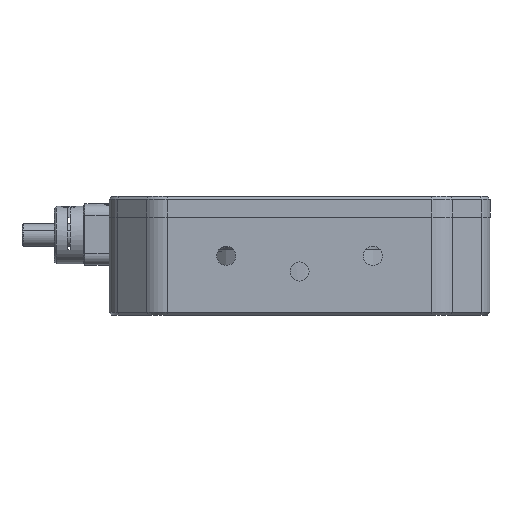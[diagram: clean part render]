
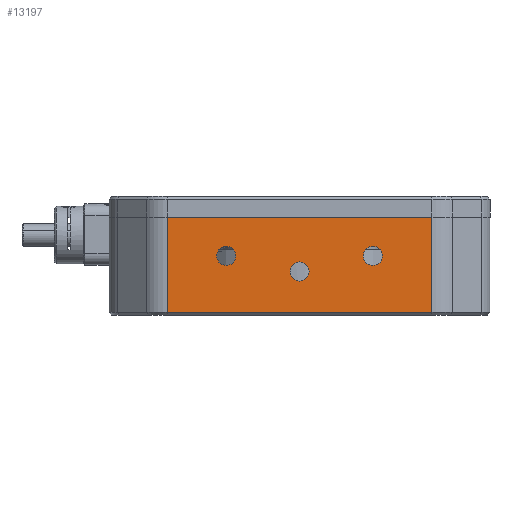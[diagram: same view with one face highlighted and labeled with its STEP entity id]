
A CAD part, front view. The second image highlights one B-rep face of the part: STEP entity #13197.
In plain terms, the highlighted planar face has unit normal (0, -1, 0).
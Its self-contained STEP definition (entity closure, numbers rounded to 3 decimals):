
#177 = CARTESIAN_POINT ( 'NONE',  ( 12.7, -33., 11.95 ) ) ;
#348 = AXIS2_PLACEMENT_3D ( 'NONE', #16070, #22334, #32355 ) ;
#1519 = FACE_BOUND ( 'NONE', #39292, .T. ) ;
#2778 = CARTESIAN_POINT ( 'NONE',  ( 12.7, -33., 8.65 ) ) ;
#3597 = CARTESIAN_POINT ( 'NONE',  ( 0., -33., 9.25 ) ) ;
#3809 = VERTEX_POINT ( 'NONE', #17522 ) ;
#4008 = ORIENTED_EDGE ( 'NONE', *, *, #7561, .F. ) ;
#4023 = ORIENTED_EDGE ( 'NONE', *, *, #27725, .F. ) ;
#4078 = EDGE_CURVE ( 'NONE', #12314, #15855, #36884, .T. ) ;
#4141 = CARTESIAN_POINT ( 'NONE',  ( 22.929, -33., 17. ) ) ;
#4150 = ORIENTED_EDGE ( 'NONE', *, *, #29383, .T. ) ;
#4716 = FACE_BOUND ( 'NONE', #17035, .T. ) ;
#5639 = CARTESIAN_POINT ( 'NONE',  ( -12.7, -33., 8.65 ) ) ;
#5710 = DIRECTION ( 'NONE',  ( 1., 0., 0. ) ) ;
#5907 = ORIENTED_EDGE ( 'NONE', *, *, #35588, .F. ) ;
#6445 = DIRECTION ( 'NONE',  ( 0., -1., 0. ) ) ;
#6650 = AXIS2_PLACEMENT_3D ( 'NONE', #13913, #17146, #26193 ) ;
#6839 = DIRECTION ( 'NONE',  ( 0., 0., 1. ) ) ;
#6871 = AXIS2_PLACEMENT_3D ( 'NONE', #36868, #33871, #33475 ) ;
#7363 = ORIENTED_EDGE ( 'NONE', *, *, #11565, .T. ) ;
#7502 = VERTEX_POINT ( 'NONE', #4141 ) ;
#7561 = EDGE_CURVE ( 'NONE', #16736, #18246, #21534, .T. ) ;
#7640 = AXIS2_PLACEMENT_3D ( 'NONE', #13975, #26250, #24207 ) ;
#9655 = EDGE_CURVE ( 'NONE', #18246, #16736, #11330, .T. ) ;
#9760 = LINE ( 'NONE', #13368, #20282 ) ;
#9870 = CARTESIAN_POINT ( 'NONE',  ( 22.929, -33., 17. ) ) ;
#10256 = CARTESIAN_POINT ( 'NONE',  ( 22.929, -33., 0.5 ) ) ;
#11330 = CIRCLE ( 'NONE', #33168, 1.65 ) ;
#11366 = CARTESIAN_POINT ( 'NONE',  ( -12.7, -33., 10.3 ) ) ;
#11565 = EDGE_CURVE ( 'NONE', #3809, #37165, #19917, .T. ) ;
#11578 = CARTESIAN_POINT ( 'NONE',  ( -12.7, -33., 10.3 ) ) ;
#11881 = DIRECTION ( 'NONE',  ( 0., 0., -1. ) ) ;
#12314 = VERTEX_POINT ( 'NONE', #177 ) ;
#13197 = ADVANCED_FACE ( 'NONE', ( #1519, #4716, #13763, #26051 ), #32281, .F. ) ;
#13368 = CARTESIAN_POINT ( 'NONE',  ( 22.929, -33., 0.5 ) ) ;
#13763 = FACE_BOUND ( 'NONE', #14195, .T. ) ;
#13913 = CARTESIAN_POINT ( 'NONE',  ( 0., -33., 7.6 ) ) ;
#13975 = CARTESIAN_POINT ( 'NONE',  ( 33., -33., 17. ) ) ;
#14195 = EDGE_LOOP ( 'NONE', ( #4008, #21649 ) ) ;
#14421 = ORIENTED_EDGE ( 'NONE', *, *, #20097, .F. ) ;
#15855 = VERTEX_POINT ( 'NONE', #2778 ) ;
#16070 = CARTESIAN_POINT ( 'NONE',  ( 0., -33., 7.6 ) ) ;
#16384 = DIRECTION ( 'NONE',  ( 1., 0., 0. ) ) ;
#16661 = VECTOR ( 'NONE', #6839, 1000. ) ;
#16736 = VERTEX_POINT ( 'NONE', #5639 ) ;
#17035 = EDGE_LOOP ( 'NONE', ( #18947, #29398 ) ) ;
#17146 = DIRECTION ( 'NONE',  ( 0., -1., 0. ) ) ;
#17430 = LINE ( 'NONE', #31051, #30069 ) ;
#17437 = ORIENTED_EDGE ( 'NONE', *, *, #35859, .T. ) ;
#17522 = CARTESIAN_POINT ( 'NONE',  ( -22.929, -33., 17. ) ) ;
#17806 = DIRECTION ( 'NONE',  ( 0., 0., -1. ) ) ;
#18031 = DIRECTION ( 'NONE',  ( 0., 0., -1. ) ) ;
#18086 = CARTESIAN_POINT ( 'NONE',  ( -22.929, -33., 0.5 ) ) ;
#18246 = VERTEX_POINT ( 'NONE', #32072 ) ;
#18863 = CIRCLE ( 'NONE', #6650, 1.65 ) ;
#18947 = ORIENTED_EDGE ( 'NONE', *, *, #38543, .F. ) ;
#19917 = LINE ( 'NONE', #26530, #37763 ) ;
#20097 = EDGE_CURVE ( 'NONE', #35412, #33717, #18863, .T. ) ;
#20282 = VECTOR ( 'NONE', #16384, 1000. ) ;
#21354 = CARTESIAN_POINT ( 'NONE',  ( 12.7, -33., 10.3 ) ) ;
#21534 = CIRCLE ( 'NONE', #35662, 1.65 ) ;
#21649 = ORIENTED_EDGE ( 'NONE', *, *, #9655, .F. ) ;
#22334 = DIRECTION ( 'NONE',  ( 0., -1., 0. ) ) ;
#22848 = CIRCLE ( 'NONE', #348, 1.65 ) ;
#23730 = CARTESIAN_POINT ( 'NONE',  ( 0., -33., 5.95 ) ) ;
#24207 = DIRECTION ( 'NONE',  ( -1., 0., 0. ) ) ;
#25544 = CIRCLE ( 'NONE', #6871, 1.65 ) ;
#26051 = FACE_OUTER_BOUND ( 'NONE', #32079, .T. ) ;
#26193 = DIRECTION ( 'NONE',  ( 0., 0., -1. ) ) ;
#26250 = DIRECTION ( 'NONE',  ( 0., 1., 0. ) ) ;
#26530 = CARTESIAN_POINT ( 'NONE',  ( -22.929, -33., 0. ) ) ;
#27070 = DIRECTION ( 'NONE',  ( 0., -1., 0. ) ) ;
#27725 = EDGE_CURVE ( 'NONE', #3809, #7502, #17430, .T. ) ;
#29383 = EDGE_CURVE ( 'NONE', #35503, #7502, #34410, .T. ) ;
#29398 = ORIENTED_EDGE ( 'NONE', *, *, #4078, .F. ) ;
#30069 = VECTOR ( 'NONE', #5710, 1000. ) ;
#31051 = CARTESIAN_POINT ( 'NONE',  ( 33., -33., 17. ) ) ;
#32072 = CARTESIAN_POINT ( 'NONE',  ( -12.7, -33., 11.95 ) ) ;
#32079 = EDGE_LOOP ( 'NONE', ( #7363, #17437, #4150, #4023 ) ) ;
#32281 = PLANE ( 'NONE',  #7640 ) ;
#32355 = DIRECTION ( 'NONE',  ( 0., 0., -1. ) ) ;
#32391 = AXIS2_PLACEMENT_3D ( 'NONE', #21354, #6445, #11881 ) ;
#33168 = AXIS2_PLACEMENT_3D ( 'NONE', #11578, #27070, #18031 ) ;
#33475 = DIRECTION ( 'NONE',  ( 0., 0., -1. ) ) ;
#33717 = VERTEX_POINT ( 'NONE', #23730 ) ;
#33871 = DIRECTION ( 'NONE',  ( 0., -1., 0. ) ) ;
#34410 = LINE ( 'NONE', #9870, #16661 ) ;
#35412 = VERTEX_POINT ( 'NONE', #3597 ) ;
#35503 = VERTEX_POINT ( 'NONE', #10256 ) ;
#35588 = EDGE_CURVE ( 'NONE', #33717, #35412, #22848, .T. ) ;
#35662 = AXIS2_PLACEMENT_3D ( 'NONE', #11366, #39130, #17806 ) ;
#35859 = EDGE_CURVE ( 'NONE', #37165, #35503, #9760, .T. ) ;
#36868 = CARTESIAN_POINT ( 'NONE',  ( 12.7, -33., 10.3 ) ) ;
#36884 = CIRCLE ( 'NONE', #32391, 1.65 ) ;
#37165 = VERTEX_POINT ( 'NONE', #18086 ) ;
#37763 = VECTOR ( 'NONE', #38806, 1000. ) ;
#38543 = EDGE_CURVE ( 'NONE', #15855, #12314, #25544, .T. ) ;
#38806 = DIRECTION ( 'NONE',  ( 0., 0., -1. ) ) ;
#39130 = DIRECTION ( 'NONE',  ( 0., -1., 0. ) ) ;
#39292 = EDGE_LOOP ( 'NONE', ( #5907, #14421 ) ) ;
